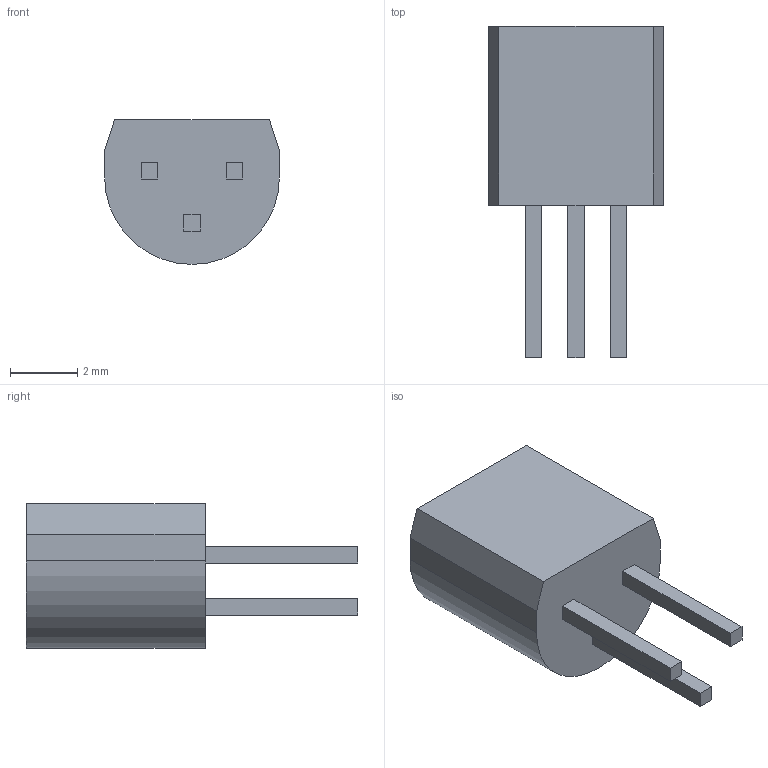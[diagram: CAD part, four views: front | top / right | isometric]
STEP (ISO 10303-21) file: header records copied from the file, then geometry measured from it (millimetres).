
FILE_DESCRIPTION (( 'STEP AP214' ), '1' );
FILE_NAME ( 'TO92-127P521H533-3.STEP', '2021-10-06T06:49:13', ( '' ), ( '' ), '', '©2017 PCB Libraries, Inc.', '' );
FILE_SCHEMA (( 'AUTOMOTIVE_DESIGN' ));
Length unit declared in the file: millimetre
Products named in the file (1): TO92-127P521H533-3
Bounding box: 5.21 x 9.87 x 4.32 mm (x, y, z)
Volume: 106 mm3; surface area: 153.3 mm2
Topology: 4 solids, 4 shells, 27 faces, 57 edges, 38 vertices
Faces by surface type: plane 25, cylinder 2
Entity records: 852 total; most frequent: CARTESIAN_POINT 123, DIRECTION 117, ORIENTED_EDGE 114, EDGE_CURVE 57, VECTOR 53, LINE 53, VERTEX_POINT 38, AXIS2_PLACEMENT_3D 32
